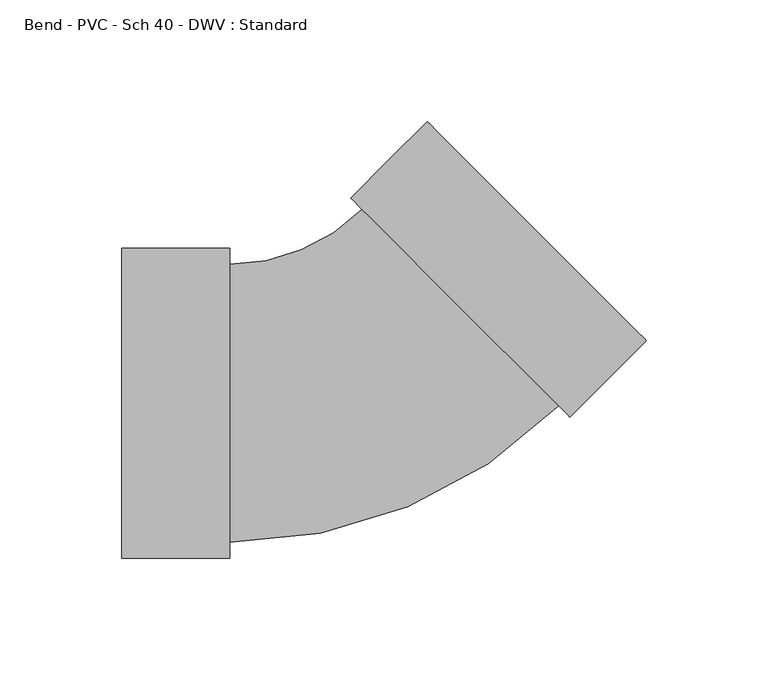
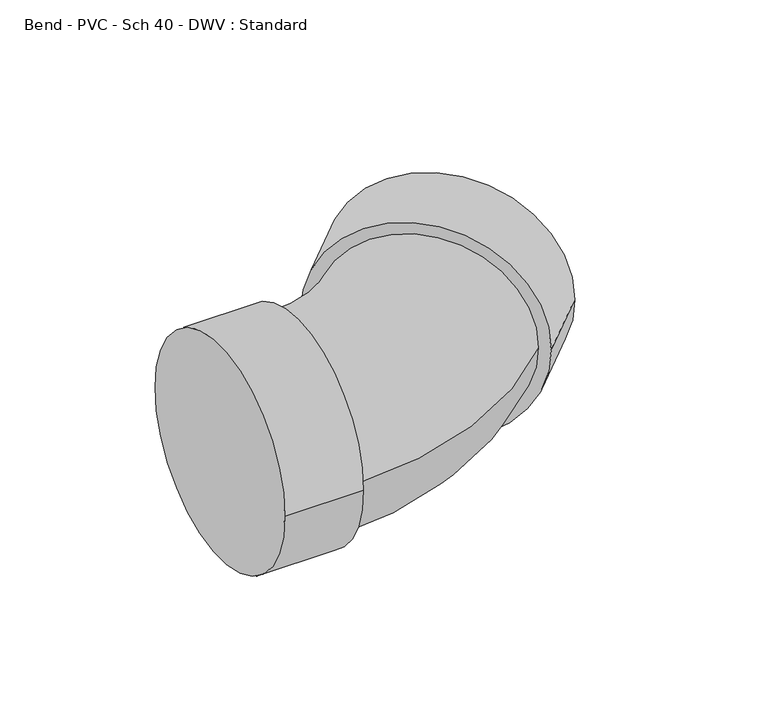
"""IFC4 building model written with IfcOpenShell, lengths in millimetres: pipe fitting geometry, Bend - PVC - Sch 40 - DWV : Standard."""

from ifc_helpers import new_model, si_unit, point, frame, origin, place, context, project, spatial, circle_curve, ellipse_curve, trimmed, source, transform, mapped, element, save
from ifc_brep_helpers import plane_surface, cylinder_surface, revolved_surface, advanced_brep


def bend_pvc_sch_40_dwv_standard_28706a6a(model_context):
    return source(origin(), model_context, "Body", "AdvancedBrep", [
        advanced_brep(
        [(-100.0252, -63.754, 0.0), (-100.0252, 63.754, 0.0), (-55.5752, -63.754, 0.0), (-55.5752, 63.754, 0.0), (-55.5752, -57.15, 0.0), (-55.5752, 57.15, 0.0), (-1.1099673, 79.7088033, 0.0), (79.7087032, -1.1171363, 0.0), (84.3782264, -5.7870794, 0.0), (-5.7794904, 84.3787465, 0.0), (115.8105362, 25.6424035, 0.0), (25.6528194, 115.8082294, 0.0)],
        [
            (0, 1, circle_curve(frame((-100.0252, 0.0, 0.0), z_axis=(-1.0, 0.0, 0.0), x_axis=(0.0, 1.0, 0.0)), 63.754)),
            (1, 0, circle_curve(frame((-100.0252, 0.0, 0.0), z_axis=(-1.0, 0.0, 0.0), x_axis=(0.0, 1.0, 0.0)), 63.754)),
            (2, 3, circle_curve(frame((-55.5752, 0.0, 0.0), z_axis=(1.0, 0.0, 0.0), x_axis=(0.0, 1.0, 0.0)), 63.754)),
            (3, 2, circle_curve(frame((-55.5752, 0.0, 0.0), z_axis=(1.0, 0.0, 0.0), x_axis=(0.0, 1.0, 0.0)), 63.754)),
            (4, 5, circle_curve(frame((-55.5752, 0.0, 0.0), z_axis=(-1.0, 0.0, 0.0), x_axis=(0.0, 1.0, 0.0)), 57.15)),
            (5, 4, circle_curve(frame((-55.5752, 0.0, 0.0), z_axis=(-1.0, 0.0, 0.0), x_axis=(0.0, 1.0, 0.0)), 57.15)),
            (0, 2),
            (3, 1),
            (6, 5, circle_curve(frame((-55.5752, 134.1789349, 0.0), z_axis=(0.0, 0.0, -1.0), x_axis=(0.0, -1.0, 0.0)), 77.0289349)),
            (4, 7, circle_curve(frame((-55.5752, 134.1789349, 0.0), z_axis=(0.0, 0.0, 1.0), x_axis=(0.0, -1.0, 0.0)), 191.3289349)),
            (7, 6, circle_curve(frame((39.299368, 39.2958335, 0.0), z_axis=(-0.707138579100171, -0.7070749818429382, 0.0), x_axis=(-0.7070749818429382, 0.707138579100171, 0.0)), 57.15)),
            (6, 7, circle_curve(frame((39.299368, 39.2958335, 0.0), z_axis=(-0.707138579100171, -0.7070749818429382, 0.0), x_axis=(-0.7070749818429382, 0.707138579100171, 0.0)), 57.15)),
            (8, 9, circle_curve(frame((39.299368, 39.2958335, 0.0), z_axis=(-0.7071385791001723, -0.7070749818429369, 0.0), x_axis=(-0.7070749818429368, 0.7071385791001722, 0.0)), 63.754)),
            (9, 8, circle_curve(frame((39.299368, 39.2958335, 0.0), z_axis=(-0.7071385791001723, -0.7070749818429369, 0.0), x_axis=(-0.7070749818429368, 0.7071385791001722, 0.0)), 63.754)),
            (10, 11, circle_curve(frame((70.7316778, 70.7253165, 0.0), z_axis=(0.7071385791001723, 0.7070749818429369, 0.0), x_axis=(-0.7070749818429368, 0.7071385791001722, 0.0)), 63.754)),
            (11, 10, circle_curve(frame((70.7316778, 70.7253165, 0.0), z_axis=(0.7071385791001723, 0.7070749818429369, 0.0), x_axis=(-0.7070749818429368, 0.7071385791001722, 0.0)), 63.754)),
            (8, 10),
            (11, 9),
        ],
        [
            plane_surface(frame((-100.0252, 0.0, 0.0), z_axis=(-1.0, 0.0, 0.0), x_axis=(0.0, 0.0, 1.0))),
            plane_surface(frame((-55.5752, 0.0, 0.0), z_axis=(1.0, 0.0, 0.0), x_axis=(0.0, 0.0, 1.0))),
            cylinder_surface(frame((-100.0252, 0.0, 0.0), z_axis=(-1.0, 0.0, 0.0), x_axis=(0.0, 1.0, 0.0)), 63.754),
            revolved_surface(trimmed(ellipse_curve(frame((-55.5752, 0.0, 0.0), z_axis=(-1.0, 0.0, 0.0), x_axis=(0.0, 1.0, 0.0)), 57.15, 57.15), [point((-55.5752, -57.15, 0.0))], [point((-55.5752, 57.15, 0.0))], True, "CARTESIAN"), (-55.5752, 134.1789349, 0.0), (0.0, 0.0, 1.0)),
            revolved_surface(trimmed(ellipse_curve(frame((-55.5752, 0.0, 0.0), z_axis=(-1.0, 0.0, 0.0), x_axis=(0.0, 1.0, 0.0)), 57.15, 57.15), [point((-55.5752, 57.15, 0.0))], [point((-55.5752, -57.15, 0.0))], True, "CARTESIAN"), (-55.5752, 134.1789349, 0.0), (0.0, 0.0, 1.0)),
            plane_surface(frame((39.299368, 39.2958335, 0.0), z_axis=(-0.7071385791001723, -0.7070749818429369, 0.0), x_axis=(0.0, 0.0, 1.0))),
            plane_surface(frame((70.7316778, 70.7253165, 0.0), z_axis=(0.7071385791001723, 0.7070749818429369, 0.0), x_axis=(0.0, 0.0, 1.0))),
            cylinder_surface(frame((39.299368, 39.2958335, 0.0), z_axis=(-0.7071385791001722, -0.7070749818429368, 0.0), x_axis=(-0.7070749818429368, 0.7071385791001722, 0.0)), 63.754),
        ],
        [
            (0, [[1, 2]]),
            (1, [[3, 4], [5, 6]]),
            (2, [[-1, 7, -4, 8]]),
            (2, [[-2, -8, -3, -7]]),
            (3, [[9, -5, 10, 11]]),
            (4, [[-9, 12, -10, -6]]),
            (5, [[13, 14], [-11, -12]]),
            (6, [[15, 16]]),
            (7, [[-13, 17, -16, 18]]),
            (7, [[-14, -18, -15, -17]]),
        ],
    ),
    ])


if __name__ == "__main__":
    model = new_model("IFC4")
    model_context = context("Model", 3, world=origin())
    ifc_project = project(units=[si_unit("LENGTHUNIT", "METRE", prefix="MILLI")], contexts=[model_context])
    site = spatial("IfcSite", under=ifc_project)
    building = spatial("IfcBuilding", under=site)
    placement = place(None, origin())
    bend_pvc_sch_40_dwv_standard_shape = bend_pvc_sch_40_dwv_standard_28706a6a(model_context)
    element("IfcPipeFitting", 1, ObjectType="Bend - PVC - Sch 40 - DWV : Standard", at=placement, inside=building, context=model_context, shape_type="MappedRepresentation", body=[
        mapped(bend_pvc_sch_40_dwv_standard_shape, transform((0.0, 0.0, 0.0), x_axis=(1.0, 0.0, 0.0), y_axis=(0.0, 1.0, 0.0), z_axis=(0.0, 0.0, 1.0))),
    ])
    save(model, "model.ifc")
